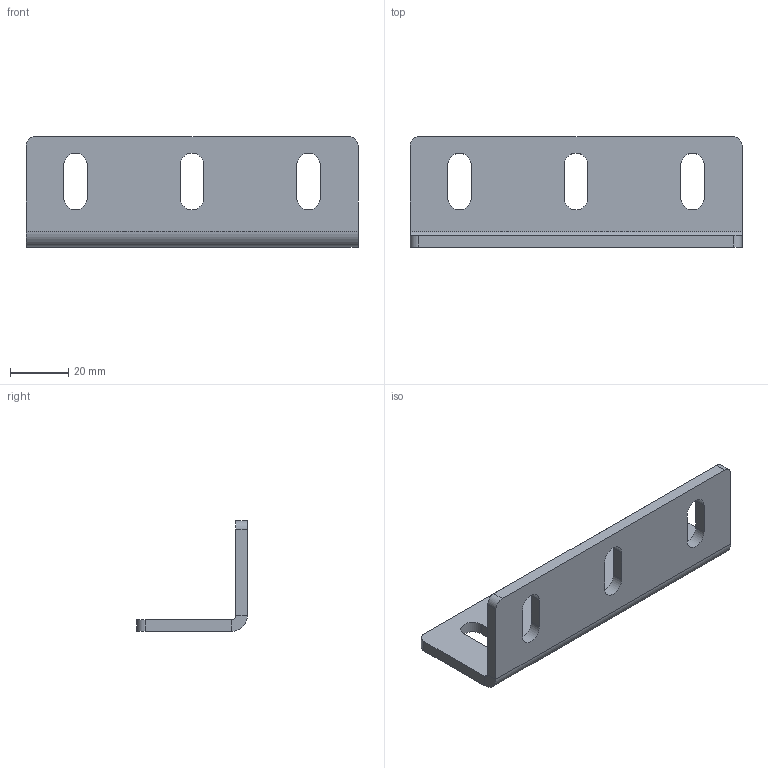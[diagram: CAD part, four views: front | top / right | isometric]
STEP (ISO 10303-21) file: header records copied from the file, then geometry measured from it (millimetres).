
FILE_DESCRIPTION (( 'STEP AP214' ), '1' );
FILE_NAME ('8206s.STEP', '2018-02-26T08:52:56', ( '' ), ( '' ), 'SwSTEP 2.0', 'SolidWorks 2014', '' );
FILE_SCHEMA (( 'AUTOMOTIVE_DESIGN' ));
Length unit declared in the file: millimetre
Products named in the file (2): 8206s
Bounding box: 114 x 38 x 38 mm (x, y, z)
Volume: 28644.5 mm3; surface area: 16933.5 mm2
Topology: 1 solids, 1 shells, 42 faces, 112 edges, 72 vertices
Faces by surface type: plane 24, cylinder 18
Entity records: 1381 total; most frequent: DIRECTION 236, CARTESIAN_POINT 228, ORIENTED_EDGE 224, EDGE_CURVE 112, AXIS2_PLACEMENT_3D 80, LINE 76, VECTOR 76, VERTEX_POINT 72
